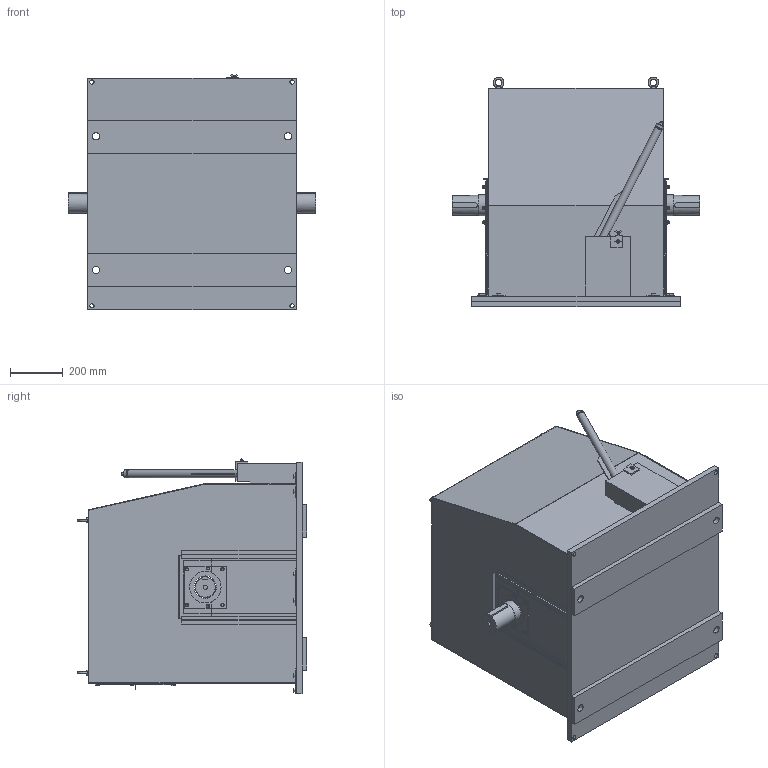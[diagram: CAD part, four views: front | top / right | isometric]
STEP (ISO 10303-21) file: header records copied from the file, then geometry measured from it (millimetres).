
FILE_DESCRIPTION (( 'STEP AP203' ), '1' );
FILE_NAME ('ECE-2116-01_水門用直流電磁ブレーキ.STEP', '2026-03-03T02:17:19', ( '' ), ( '' ), 'SwSTEP 2.0', 'SolidWorks 2025', '' );
FILE_SCHEMA (( 'CONFIG_CONTROL_DESIGN' ));
Length unit declared in the file: millimetre
Products named in the file (1): ECE-2116-01_水門用直流電磁ブレーキ
Bounding box: 940 x 870.99 x 894.9 mm (x, y, z)
Volume: 32313933.6 mm3; surface area: 7551662.7 mm2
Topology: 6 solids, 6 shells, 1083 faces, 2763 edges, 1746 vertices
Faces by surface type: plane 699, cylinder 173, cone 168, sphere 20, torus 19, bspline 4
Full cylindrical faces by diameter (mm): 6 x1, 7 x3, 8.5 x4, 9.5 x1, 10 x16, 13 x14, 16 x5, 18 x12, 24 x1, 28 x8, 30 x2, 35 x1, 75 x2, 80 x5, 85 x2
Entity records: 32997 total; most frequent: CARTESIAN_POINT 7697, ORIENTED_EDGE 5258, DIRECTION 4938, EDGE_CURVE 2629, LINE 1732, VECTOR 1732, VERTEX_POINT 1708, AXIS2_PLACEMENT_3D 1603
